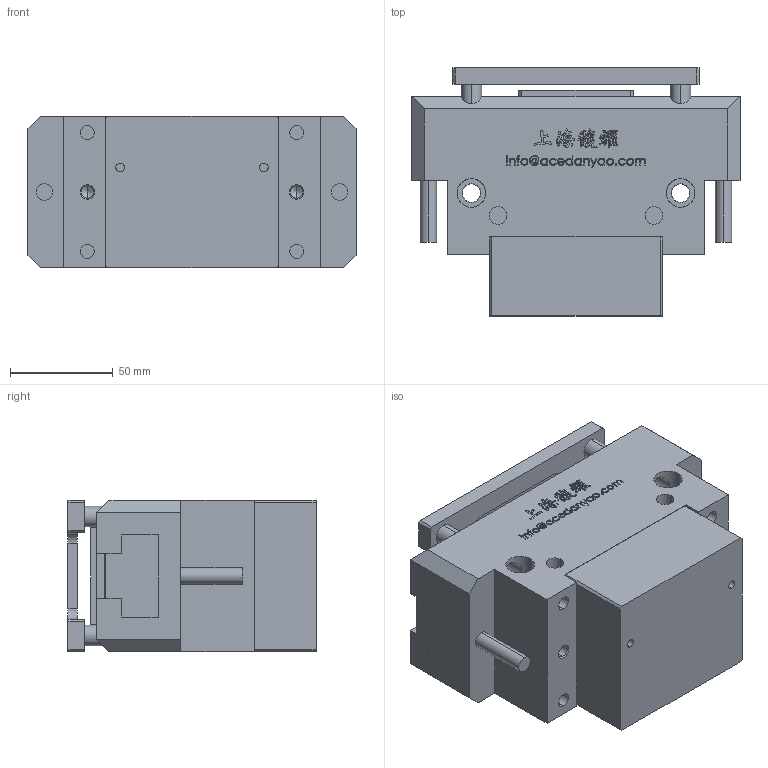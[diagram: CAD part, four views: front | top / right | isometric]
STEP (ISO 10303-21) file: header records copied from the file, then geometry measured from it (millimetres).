
FILE_DESCRIPTION (( 'STEP AP203' ), '1' );
FILE_NAME ('OPP2-160-C2-P-MC&MA-原始檔-組合-W106.04.19.STEP', '2017-04-19T03:35:12', ( 'DanyaoCAD' ), ( '' ), 'SwSTEP 2.0', 'SolidWorks 2016', '' );
FILE_SCHEMA (( 'CONFIG_CONTROL_DESIGN' ));
Length unit declared in the file: millimetre
Products named in the file (6): Griffa; Coperchio; Corpo; Fondello; Piattello; OPP2-160-C2-P-MC&MA-原始檔-組合-W106.04.19
Assembly tree (6 placements, depth 2):
  OPP2-160-C2-P-MC&MA-原始檔-組合-W106.04.19
    Griffa  x2
    Coperchio
    Corpo
    Fondello
    Piattello
Bounding box: 160 x 121 x 74 mm (x, y, z)
Volume: 981912.7 mm3; surface area: 159640.4 mm2
Topology: 6 solids, 6 shells, 1069 faces, 2976 edges, 1970 vertices
Faces by surface type: bspline 640, plane 301, cylinder 100, cone 28
Entity records: 50668 total; most frequent: CARTESIAN_POINT 27611, ORIENTED_EDGE 5784, EDGE_CURVE 2892, DIRECTION 2594, VERTEX_POINT 1920, VECTOR 1380, LINE 1380, B_SPLINE_CURVE_WITH_KNOTS 1304
